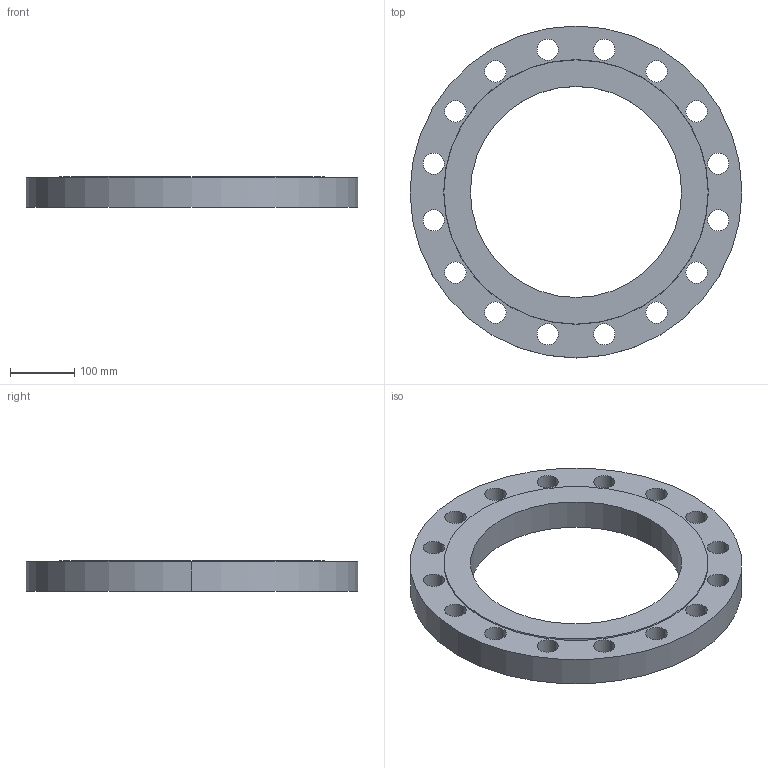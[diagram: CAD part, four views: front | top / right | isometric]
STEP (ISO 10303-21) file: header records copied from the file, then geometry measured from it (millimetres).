
FILE_DESCRIPTION (( 'STEP AP214' ), '1' );
FILE_NAME ('PN40 DN300 Type 01 - Type B Face.STEP', '2019-01-05T20:31:13', ( '' ), ( '' ), 'SwSTEP 2.0', 'SolidWorks 2019', '' );
FILE_SCHEMA (( 'AUTOMOTIVE_DESIGN' ));
Length unit declared in the file: millimetre
Products named in the file (1): PN40 DN300 Type 01 - Type B Face
Bounding box: 515 x 515 x 48 mm (x, y, z)
Volume: 5173672.7 mm3; surface area: 423043.8 mm2
Topology: 1 solids, 1 shells, 41 faces, 114 edges, 76 vertices
Faces by surface type: cylinder 36, plane 3, cone 2
Entity records: 1466 total; most frequent: DIRECTION 274, CARTESIAN_POINT 232, ORIENTED_EDGE 228, AXIS2_PLACEMENT_3D 118, EDGE_CURVE 114, CIRCLE 76, VERTEX_POINT 76, EDGE_LOOP 76
